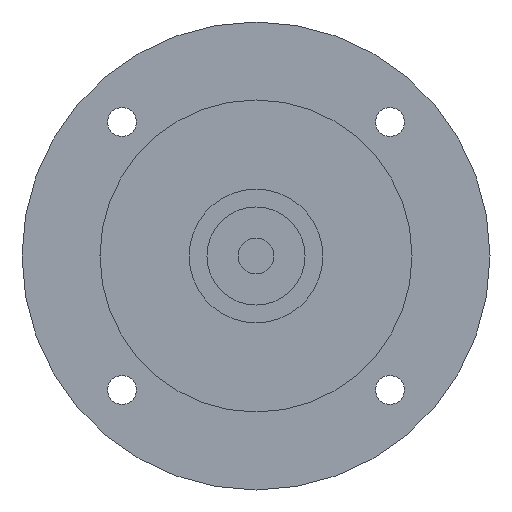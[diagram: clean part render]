
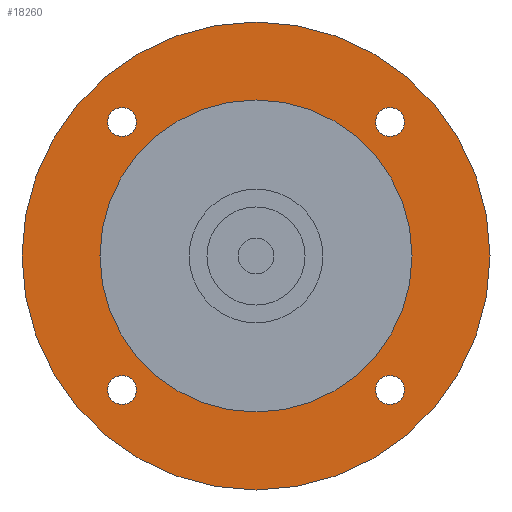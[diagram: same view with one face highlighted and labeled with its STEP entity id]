
A CAD part, left-side view. The second image highlights one B-rep face of the part: STEP entity #18260.
In plain terms, the highlighted planar face has unit normal (-1, 0, 0) as drawn and (0, 0, -1) by its records, which use the part's own axes.
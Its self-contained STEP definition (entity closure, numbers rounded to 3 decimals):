
#11110=CARTESIAN_POINT('',(-30.052,-33.302,-58.5));
#11120=VERTEX_POINT('',#11110);
#11150=CARTESIAN_POINT('',(-30.052,-30.052,-58.5));
#11160=DIRECTION('',(0.,0.,-1.));
#11170=DIRECTION('',(0.,-1.,0.));
#11180=AXIS2_PLACEMENT_3D('',#11150,#11160,#11170);
#11190=CIRCLE('',#11180,3.25);
#11200=CARTESIAN_POINT('',(-30.052,-26.802,-58.5));
#11210=VERTEX_POINT('',#11200);
#11220=EDGE_CURVE('',#11210,#11120,#11190,.T.);
#12870=CARTESIAN_POINT('',(30.052,-33.302,-58.5));
#12880=VERTEX_POINT('',#12870);
#12910=CARTESIAN_POINT('',(30.052,-30.052,-58.5));
#12920=DIRECTION('',(0.,0.,-1.));
#12930=DIRECTION('',(0.,-1.,0.));
#12940=AXIS2_PLACEMENT_3D('',#12910,#12920,#12930);
#12950=CIRCLE('',#12940,3.25);
#12960=CARTESIAN_POINT('',(30.052,-26.802,-58.5));
#12970=VERTEX_POINT('',#12960);
#12980=EDGE_CURVE('',#12970,#12880,#12950,.T.);
#17380=CARTESIAN_POINT('',(52.5,0.,-58.5));
#17390=VERTEX_POINT('',#17380);
#17420=CARTESIAN_POINT('',(0.,0.,
-58.5));
#17430=DIRECTION('',(0.,0.,1.));
#17440=DIRECTION('',(1.,0.,0.));
#17450=AXIS2_PLACEMENT_3D('',#17420,#17430,#17440);
#17460=CIRCLE('',#17450,52.5);
#17470=CARTESIAN_POINT('',(-52.5,0.,-58.5));
#17480=VERTEX_POINT('',#17470);
#17490=EDGE_CURVE('',#17480,#17390,#17460,.T.);
#17610=CARTESIAN_POINT('',(0.,0.,
-58.5));
#17620=DIRECTION('',(0.,0.,1.));
#17630=DIRECTION('',(-1.,0.,0.));
#17640=AXIS2_PLACEMENT_3D('',#17610,#17620,#17630);
#17650=PLANE('',#17640);
#17660=CARTESIAN_POINT('',(0.,0.,
-58.5));
#17670=DIRECTION('',(0.,0.,-1.));
#17680=DIRECTION('',(0.,-1.,0.));
#17690=AXIS2_PLACEMENT_3D('',#17660,#17670,#17680);
#17700=CIRCLE('',#17690,35.);
#17710=CARTESIAN_POINT('',(0.,-35.,-58.5));
#17720=VERTEX_POINT('',#17710);
#17730=CARTESIAN_POINT('',(0.,35.,-58.5));
#17740=VERTEX_POINT('',#17730);
#17750=EDGE_CURVE('',#17720,#17740,#17700,.T.);
#17760=ORIENTED_EDGE('',*,*,#17750,.F.);
#17770=EDGE_CURVE('',#17740,#17720,#17700,.T.);
#17780=ORIENTED_EDGE('',*,*,#17770,.F.);
#17790=EDGE_LOOP('',(#17780,#17760));
#17800=FACE_BOUND('',#17790,.T.);
#17810=EDGE_CURVE('',#17390,#17480,#17460,.T.);
#17820=ORIENTED_EDGE('',*,*,#17810,.F.);
#17830=ORIENTED_EDGE('',*,*,#17490,.F.);
#17840=EDGE_LOOP('',(#17830,#17820));
#17850=FACE_OUTER_BOUND('',#17840,.T.);
#17860=CARTESIAN_POINT('',(-30.052,30.052,-58.5));
#17870=DIRECTION('',(0.,0.,-1.));
#17880=DIRECTION('',(0.,-1.,0.));
#17890=AXIS2_PLACEMENT_3D('',#17860,#17870,#17880);
#17900=CIRCLE('',#17890,3.25);
#17910=CARTESIAN_POINT('',(-30.052,26.802,-58.5));
#17920=VERTEX_POINT('',#17910);
#17930=CARTESIAN_POINT('',(-30.052,33.302,-58.5));
#17940=VERTEX_POINT('',#17930);
#17950=EDGE_CURVE('',#17920,#17940,#17900,.T.);
#17960=ORIENTED_EDGE('',*,*,#17950,.F.);
#17970=EDGE_CURVE('',#17940,#17920,#17900,.T.);
#17980=ORIENTED_EDGE('',*,*,#17970,.F.);
#17990=EDGE_LOOP('',(#17980,#17960));
#18000=FACE_BOUND('',#17990,.T.);
#18010=CARTESIAN_POINT('',(30.052,30.052,-58.5));
#18020=DIRECTION('',(0.,0.,-1.));
#18030=DIRECTION('',(0.,-1.,0.));
#18040=AXIS2_PLACEMENT_3D('',#18010,#18020,#18030);
#18050=CIRCLE('',#18040,3.25);
#18060=CARTESIAN_POINT('',(30.052,26.802,-58.5));
#18070=VERTEX_POINT('',#18060);
#18080=CARTESIAN_POINT('',(30.052,33.302,-58.5));
#18090=VERTEX_POINT('',#18080);
#18100=EDGE_CURVE('',#18070,#18090,#18050,.T.);
#18110=ORIENTED_EDGE('',*,*,#18100,.F.);
#18120=EDGE_CURVE('',#18090,#18070,#18050,.T.);
#18130=ORIENTED_EDGE('',*,*,#18120,.F.);
#18140=EDGE_LOOP('',(#18130,#18110));
#18150=FACE_BOUND('',#18140,.T.);
#18160=EDGE_CURVE('',#12880,#12970,#12950,.T.);
#18170=ORIENTED_EDGE('',*,*,#18160,.F.);
#18180=ORIENTED_EDGE('',*,*,#12980,.F.);
#18190=EDGE_LOOP('',(#18180,#18170));
#18200=FACE_BOUND('',#18190,.T.);
#18210=EDGE_CURVE('',#11120,#11210,#11190,.T.);
#18220=ORIENTED_EDGE('',*,*,#18210,.F.);
#18230=ORIENTED_EDGE('',*,*,#11220,.F.);
#18240=EDGE_LOOP('',(#18230,#18220));
#18250=FACE_BOUND('',#18240,.T.);
#18260=ADVANCED_FACE('',(#17800,#17850,#18000,#18150,#18200,#18250),
#17650,.F.);
